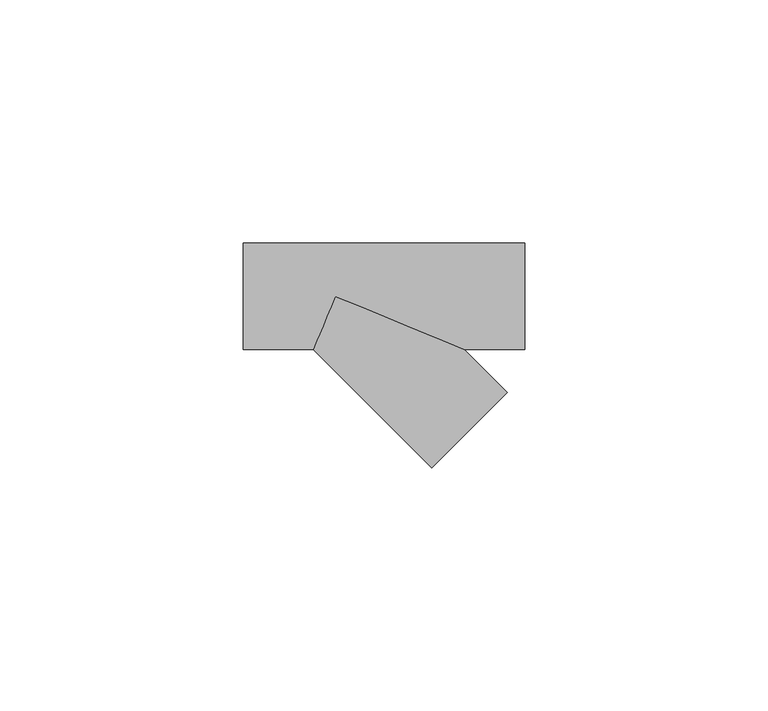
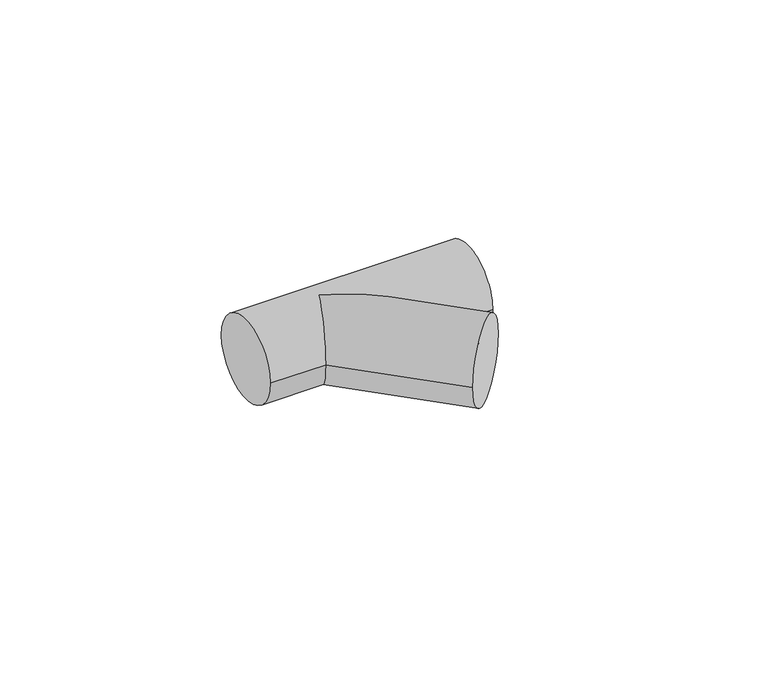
"""IFC4 building model written with IfcOpenShell, lengths in millimetres: pipe fitting geometry, 010513441 : Tes 45º."""

from ifc_helpers import new_model, si_unit, frame, origin, place, context, project, spatial, circle_curve, ellipse_curve, source, transform, mapped, element, save
from ifc_brep_helpers import plane_surface, cylinder_surface, advanced_brep


def pipe_fitting_9caacf95(model_context):
    return source(origin(), model_context, "Body", "AdvancedBrep", [
        advanced_brep(
        [(-19.0, -11.0, 0.0), (-19.0, 11.0, 0.0), (39.0, -11.0, 0.0), (39.0, 11.0, 0.0), (-4.5563492, -11.0, 0.0), (0.0, 0.0, 11.0), (26.5563492, -11.0, 0.0), (0.0, 0.0, -11.0), (19.7989899, -35.3553391, 0.0), (35.3553391, -19.7989899, 0.0)],
        [
            (0, 1, circle_curve(frame((-19.0, 0.0, 0.0), z_axis=(-1.0, 0.0, 0.0), x_axis=(0.0, 1.0, 0.0)), 11.0)),
            (1, 0, circle_curve(frame((-19.0, 0.0, 0.0), z_axis=(-1.0, 0.0, 0.0), x_axis=(0.0, 1.0, 0.0)), 11.0)),
            (2, 3, circle_curve(frame((39.0, 0.0, 0.0), z_axis=(1.0, 0.0, 0.0), x_axis=(0.0, 1.0, 0.0)), 11.0)),
            (3, 2, circle_curve(frame((39.0, 0.0, 0.0), z_axis=(1.0, 0.0, 0.0), x_axis=(0.0, 1.0, 0.0)), 11.0)),
            (0, 4),
            (4, 5, ellipse_curve(frame((0.0, 0.0, 0.0), z_axis=(-0.9238795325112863, 0.38268343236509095, 0.0), x_axis=(-0.38268343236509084, -0.9238795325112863, 0.0)), 11.9063142, 11.0)),
            (5, 6, ellipse_curve(frame((0.0, 0.0, 0.0), z_axis=(0.38268343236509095, 0.9238795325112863, 0.0), x_axis=(-0.9238795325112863, 0.382683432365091, 0.0)), 28.7443852, 11.0)),
            (6, 2),
            (3, 1),
            (6, 7, ellipse_curve(frame((0.0, 0.0, 0.0), z_axis=(0.38268343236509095, 0.9238795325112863, 0.0), x_axis=(-0.9238795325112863, 0.382683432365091, 0.0)), 28.7443852, 11.0)),
            (7, 4, ellipse_curve(frame((0.0, 0.0, 0.0), z_axis=(-0.9238795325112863, 0.38268343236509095, 0.0), x_axis=(-0.38268343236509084, -0.9238795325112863, 0.0)), 11.9063142, 11.0)),
            (8, 9, circle_curve(frame((27.5771645, -27.5771645, 0.0), z_axis=(0.707106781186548, -0.707106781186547, 0.0), x_axis=(0.707106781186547, 0.707106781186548, 0.0)), 11.0)),
            (9, 8, circle_curve(frame((27.5771645, -27.5771645, 0.0), z_axis=(0.707106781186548, -0.707106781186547, 0.0), x_axis=(0.707106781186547, 0.707106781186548, 0.0)), 11.0)),
            (9, 6),
            (4, 8),
        ],
        [
            plane_surface(frame((-19.0, 0.0, 0.0), z_axis=(-1.0, 0.0, 0.0), x_axis=(0.0, 0.0, 1.0))),
            plane_surface(frame((39.0, 0.0, 0.0), z_axis=(1.0, 0.0, 0.0), x_axis=(0.0, 0.0, 1.0))),
            cylinder_surface(frame((-19.0, 0.0, 0.0), z_axis=(-1.0, 0.0, 0.0), x_axis=(0.0, 1.0, 0.0)), 11.0),
            plane_surface(frame((27.5771645, -27.5771645, 0.0), z_axis=(0.707106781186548, -0.707106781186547, 0.0), x_axis=(0.0, 0.0, 1.0))),
            cylinder_surface(frame((0.0, 0.0, 0.0), z_axis=(-0.707106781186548, 0.707106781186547, 0.0), x_axis=(0.707106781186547, 0.707106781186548, 0.0)), 11.0),
        ],
        [
            (0, [[1, 2]]),
            (1, [[3, 4]]),
            (2, [[-1, 5, 6, 7, 8, -4, 9]]),
            (2, [[-2, -9, -3, -8, 10, 11, -5]]),
            (3, [[12, 13]]),
            (4, [[-13, 14, -7, -6, 15]]),
            (4, [[-12, -15, -11, -10, -14]]),
        ],
    ),
    ])


if __name__ == "__main__":
    model = new_model("IFC4")
    model_context = context("Model", 3, world=origin())
    ifc_project = project(units=[si_unit("LENGTHUNIT", "METRE", prefix="MILLI")], contexts=[model_context])
    site = spatial("IfcSite", under=ifc_project)
    building = spatial("IfcBuilding", under=site)
    placement = place(None, origin())
    pipe_fitting_shape = pipe_fitting_9caacf95(model_context)
    element("IfcPipeFitting", 1, ObjectType="010513441 : Tes 45º", at=placement, inside=building, context=model_context, shape_type="MappedRepresentation", body=[
        mapped(pipe_fitting_shape, transform((0.0, 0.0, 0.0), x_axis=(1.0, 0.0, 0.0), y_axis=(0.0, 1.0, 0.0), z_axis=(0.0, 0.0, 1.0))),
    ])
    save(model, "model.ifc")
